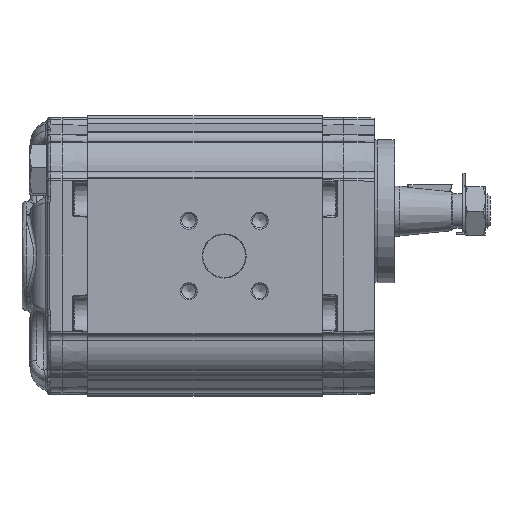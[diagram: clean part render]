
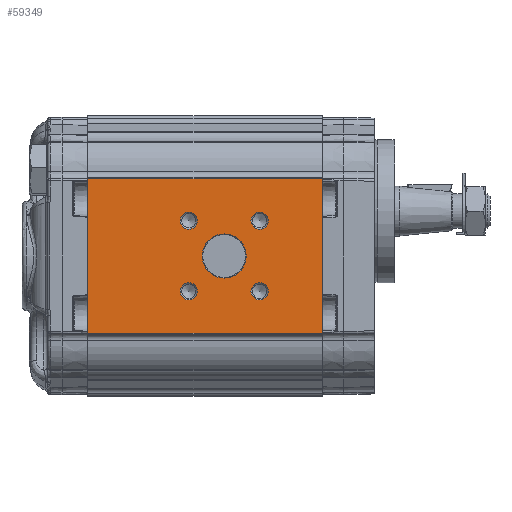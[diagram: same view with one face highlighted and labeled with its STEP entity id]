
A CAD part, left-side view. The second image highlights one B-rep face of the part: STEP entity #59349.
In plain terms, the highlighted planar face has unit normal (-1, 0, 0) as drawn and (1, 0, 0) by its records, which use the part's own axes.
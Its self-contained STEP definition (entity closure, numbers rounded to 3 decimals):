
#3914=PLANE('',#63107);
#5200=LINE('',#91051,#7344);
#5212=LINE('',#91190,#7356);
#5229=LINE('',#91234,#7373);
#5230=LINE('',#91235,#7374);
#7344=VECTOR('',#70243,1000.);
#7356=VECTOR('',#70373,1000.);
#7373=VECTOR('',#70426,1000.);
#7374=VECTOR('',#70427,1000.);
#14161=ORIENTED_EDGE('',*,*,#23866,.T.);
#14162=ORIENTED_EDGE('',*,*,#23867,.T.);
#14163=ORIENTED_EDGE('',*,*,#23868,.T.);
#14164=ORIENTED_EDGE('',*,*,#23869,.T.);
#14165=ORIENTED_EDGE('',*,*,#23870,.T.);
#14166=ORIENTED_EDGE('',*,*,#23845,.F.);
#14167=ORIENTED_EDGE('',*,*,#23871,.F.);
#14168=ORIENTED_EDGE('',*,*,#23775,.T.);
#14169=ORIENTED_EDGE('',*,*,#23872,.T.);
#23775=EDGE_CURVE('',#28966,#28965,#5200,.T.);
#23845=EDGE_CURVE('',#29033,#29034,#5212,.T.);
#23866=EDGE_CURVE('',#29038,#29038,#32195,.F.);
#23867=EDGE_CURVE('',#29039,#29039,#32196,.F.);
#23868=EDGE_CURVE('',#29040,#29040,#32197,.F.);
#23869=EDGE_CURVE('',#29041,#29041,#32198,.F.);
#23870=EDGE_CURVE('',#29042,#29042,#32199,.F.);
#23871=EDGE_CURVE('',#28966,#29033,#5229,.T.);
#23872=EDGE_CURVE('',#28965,#29034,#5230,.T.);
#28965=VERTEX_POINT('',#91050);
#28966=VERTEX_POINT('',#91052);
#29033=VERTEX_POINT('',#91189);
#29034=VERTEX_POINT('',#91191);
#29038=VERTEX_POINT('',#91225);
#29039=VERTEX_POINT('',#91227);
#29040=VERTEX_POINT('',#91229);
#29041=VERTEX_POINT('',#91231);
#29042=VERTEX_POINT('',#91233);
#32195=CIRCLE('',#63108,7.7);
#32196=CIRCLE('',#63109,3.);
#32197=CIRCLE('',#63110,3.);
#32198=CIRCLE('',#63111,3.);
#32199=CIRCLE('',#63112,3.);
#34254=EDGE_LOOP('',(#14161));
#34255=EDGE_LOOP('',(#14162));
#34256=EDGE_LOOP('',(#14163));
#34257=EDGE_LOOP('',(#14164));
#34258=EDGE_LOOP('',(#14165));
#34259=EDGE_LOOP('',(#14166,#14167,#14168,#14169));
#37193=FACE_BOUND('',#34254,.T.);
#37194=FACE_BOUND('',#34255,.T.);
#37195=FACE_BOUND('',#34256,.T.);
#37196=FACE_BOUND('',#34257,.T.);
#37197=FACE_BOUND('',#34258,.T.);
#37198=FACE_BOUND('',#34259,.T.);
#59349=ADVANCED_FACE('',(#37193,#37194,#37195,#37196,#37197,#37198),#3914,
 .T.);
#63107=AXIS2_PLACEMENT_3D('',#91223,#70414,#70415);
#63108=AXIS2_PLACEMENT_3D('',#91224,#70416,#70417);
#63109=AXIS2_PLACEMENT_3D('',#91226,#70418,#70419);
#63110=AXIS2_PLACEMENT_3D('',#91228,#70420,#70421);
#63111=AXIS2_PLACEMENT_3D('',#91230,#70422,#70423);
#63112=AXIS2_PLACEMENT_3D('',#91232,#70424,#70425);
#70243=DIRECTION('',(0.,0.,1.));
#70373=DIRECTION('',(0.,0.,1.));
#70414=DIRECTION('',(1.,0.,0.));
#70415=DIRECTION('',(0.,0.,-1.));
#70416=DIRECTION('',(1.,0.,0.));
#70417=DIRECTION('',(0.,0.,-1.));
#70418=DIRECTION('',(1.,0.,0.));
#70419=DIRECTION('',(0.,0.,-1.));
#70420=DIRECTION('',(1.,0.,0.));
#70421=DIRECTION('',(0.,0.,-1.));
#70422=DIRECTION('',(1.,0.,0.));
#70423=DIRECTION('',(0.,0.,-1.));
#70424=DIRECTION('',(1.,0.,0.));
#70425=DIRECTION('',(0.,0.,-1.));
#70426=DIRECTION('',(0.,-1.,0.));
#70427=DIRECTION('',(0.,-1.,0.));
#91050=CARTESIAN_POINT('',(43.,82.,27.048));
#91051=CARTESIAN_POINT('',(43.,82.,27.048));
#91052=CARTESIAN_POINT('',(43.,82.,-27.048));
#91189=CARTESIAN_POINT('',(43.,0.,-27.048));
#91190=CARTESIAN_POINT('',(43.,0.,27.048));
#91191=CARTESIAN_POINT('',(43.,0.,27.048));
#91223=CARTESIAN_POINT('',(43.,82.,27.048));
#91224=CARTESIAN_POINT('',(43.,34.3,0.));
#91225=CARTESIAN_POINT('',(43.,34.3,-7.7));
#91226=CARTESIAN_POINT('',(43.,46.674,-12.374));
#91227=CARTESIAN_POINT('',(43.,46.674,-15.374));
#91228=CARTESIAN_POINT('',(43.,46.674,12.374));
#91229=CARTESIAN_POINT('',(43.,46.674,9.374));
#91230=CARTESIAN_POINT('',(43.,21.926,12.374));
#91231=CARTESIAN_POINT('',(43.,21.926,9.374));
#91232=CARTESIAN_POINT('',(43.,21.926,-12.374));
#91233=CARTESIAN_POINT('',(43.,21.926,-15.374));
#91234=CARTESIAN_POINT('',(43.,82.,-27.048));
#91235=CARTESIAN_POINT('',(43.,82.,27.048));
